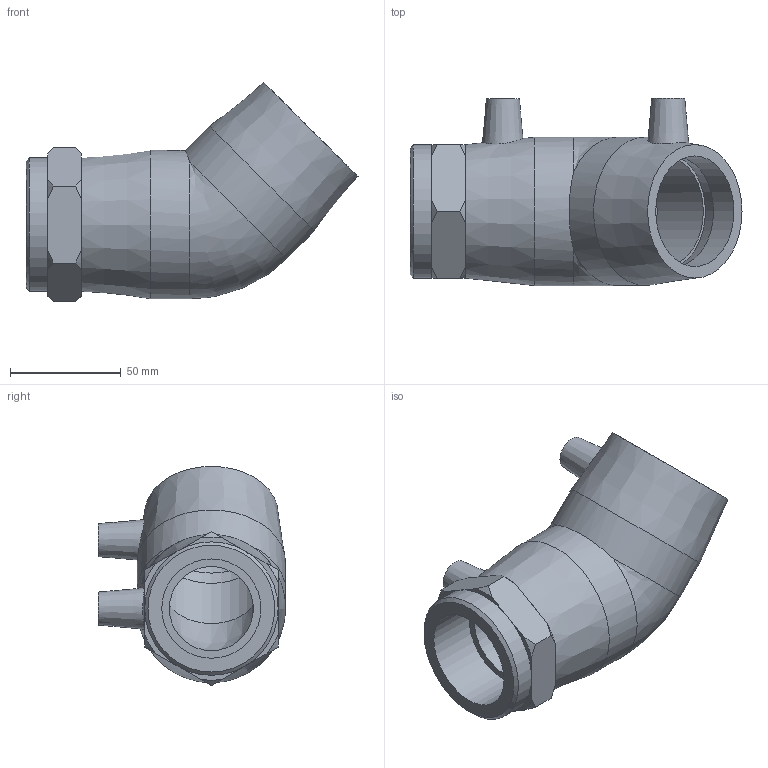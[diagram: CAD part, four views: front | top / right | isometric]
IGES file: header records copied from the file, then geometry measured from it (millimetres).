
Global section: file name: 493604050015.ipt; native system: Autodesk Inventor 2015; preprocessor: unknown; author: KIM; date: 20200202.122500; units: millimetre
Bounding box: 150 x 84.5 x 99.08 mm (x, y, z)
Volume: 262115.7 mm3; surface area: 60929 mm2
Topology: 1 solids, 2 shells, 61 faces, 150 edges, 100 vertices
Faces by surface type: plane 27, cone 17, revolution 9, cylinder 7, bspline 1
Full cylindrical faces by diameter (mm): 4 x2, 50 x2, 60.3 x1, 67 x2
